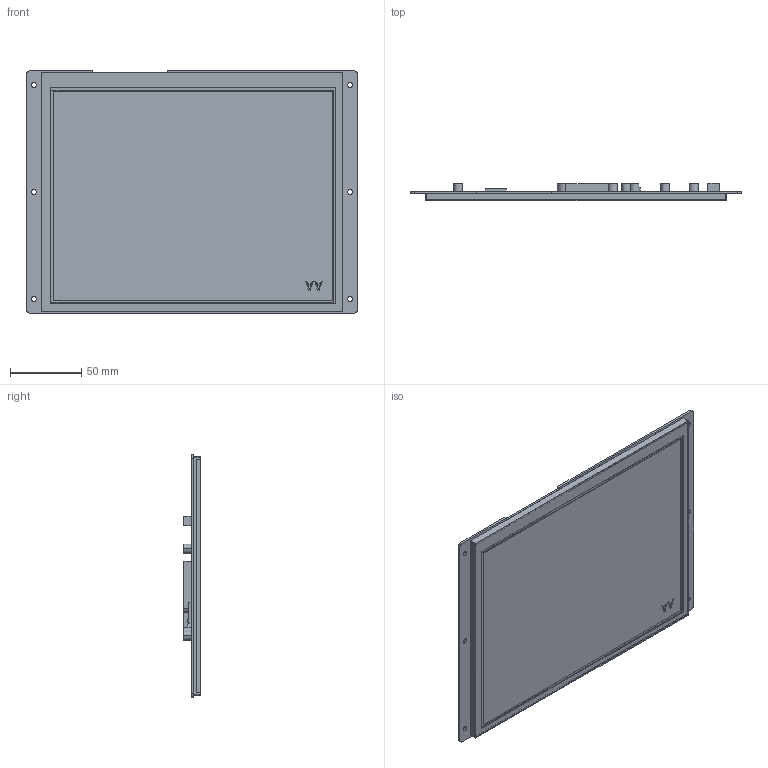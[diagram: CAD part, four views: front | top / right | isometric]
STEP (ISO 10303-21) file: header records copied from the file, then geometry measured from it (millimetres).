
FILE_DESCRIPTION((''),'2;1');
FILE_NAME('DMG10768K097-03WTC_ASM','2022-02-22T',('Administrator'),(''),'PRO/ENGINEER BY PARAMETRIC TECHNOLOGY CORPORATION, 2014320','PRO/ENGINEER BY PARAMETRIC TECHNOLOGY CORPORATION, 2014320','');
FILE_SCHEMA(('CONFIG_CONTROL_DESIGN','SHAPE_APPEARANCE_LAYERS_GROUPS'));
Length unit declared in the file: millimetre
Products named in the file (4): TK097001; LN10768T097HB3004; PCB; DMG10768K097-03WTC_ASM
Assembly tree (3 placements, depth 2):
  DMG10768K097-03WTC_ASM
    TK097001
    LN10768T097HB3004
    PCB
Bounding box: 232.41 x 12.4 x 170.69 mm (x, y, z)
Volume: 169684.4 mm3; surface area: 171615.2 mm2
Topology: 3 solids, 3 shells, 183 faces, 474 edges, 316 vertices
Faces by surface type: plane 147, cylinder 36
Entity records: 5812 total; most frequent: CARTESIAN_POINT 980, ORIENTED_EDGE 948, DIRECTION 926, EDGE_CURVE 474, VECTOR 402, LINE 402, VERTEX_POINT 316, AXIS2_PLACEMENT_3D 262
